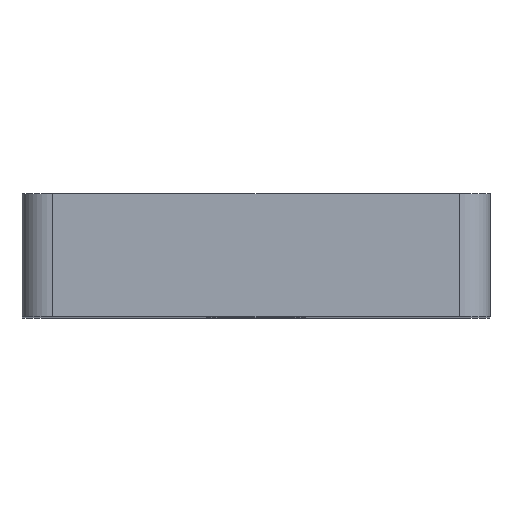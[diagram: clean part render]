
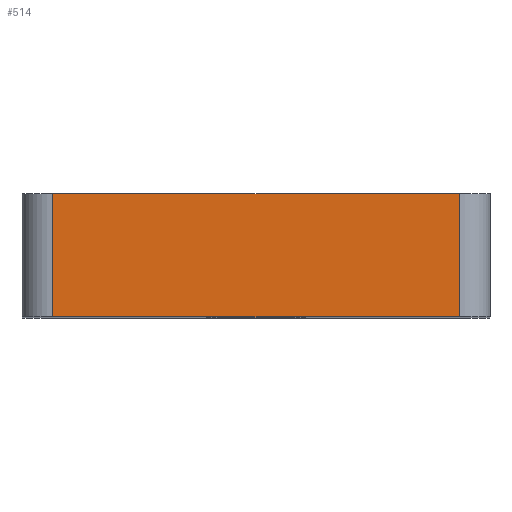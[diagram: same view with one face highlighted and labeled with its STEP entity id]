
A CAD part, top view. The second image highlights one B-rep face of the part: STEP entity #514.
In plain terms, the highlighted planar face has unit normal (0, 0, 1).
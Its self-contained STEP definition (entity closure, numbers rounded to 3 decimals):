
#3 = CARTESIAN_POINT ( 'NONE',  ( -19., 5., 40. ) ) ;
#25 = ORIENTED_EDGE ( 'NONE', *, *, #468, .T. ) ;
#31 = LINE ( 'NONE', #1380, #329 ) ;
#102 = EDGE_CURVE ( 'NONE', #371, #1270, #985, .T. ) ;
#138 = CARTESIAN_POINT ( 'NONE',  ( -19., -5., 40. ) ) ;
#173 = EDGE_LOOP ( 'NONE', ( #722, #1361, #470, #25 ) ) ;
#198 = LINE ( 'NONE', #1223, #583 ) ;
#224 = CARTESIAN_POINT ( 'NONE',  ( 16.5, -5., 40. ) ) ;
#243 = DIRECTION ( 'NONE',  ( 0., -1., 0. ) ) ;
#283 = CARTESIAN_POINT ( 'NONE',  ( -19., 5., 40. ) ) ;
#329 = VECTOR ( 'NONE', #1404, 1000. ) ;
#371 = VERTEX_POINT ( 'NONE', #908 ) ;
#468 = EDGE_CURVE ( 'NONE', #1133, #371, #198, .T. ) ;
#470 = ORIENTED_EDGE ( 'NONE', *, *, #1375, .F. ) ;
#491 = DIRECTION ( 'NONE',  ( 1., 0., 0. ) ) ;
#499 = DIRECTION ( 'NONE',  ( 1., 0., 0. ) ) ;
#514 = ADVANCED_FACE ( 'NONE', ( #1201 ), #714, .F. ) ;
#519 = CARTESIAN_POINT ( 'NONE',  ( 16.5, 5., 40. ) ) ;
#536 = LINE ( 'NONE', #283, #755 ) ;
#583 = VECTOR ( 'NONE', #243, 1000. ) ;
#714 = PLANE ( 'NONE',  #791 ) ;
#722 = ORIENTED_EDGE ( 'NONE', *, *, #102, .T. ) ;
#755 = VECTOR ( 'NONE', #491, 1000. ) ;
#791 = AXIS2_PLACEMENT_3D ( 'NONE', #3, #1284, #1205 ) ;
#908 = CARTESIAN_POINT ( 'NONE',  ( -16.5, -5., 40. ) ) ;
#931 = EDGE_CURVE ( 'NONE', #1270, #1230, #31, .T. ) ;
#976 = CARTESIAN_POINT ( 'NONE',  ( -16.5, 5., 40. ) ) ;
#985 = LINE ( 'NONE', #138, #1156 ) ;
#1133 = VERTEX_POINT ( 'NONE', #976 ) ;
#1156 = VECTOR ( 'NONE', #499, 1000. ) ;
#1201 = FACE_OUTER_BOUND ( 'NONE', #173, .T. ) ;
#1205 = DIRECTION ( 'NONE',  ( -1., 0., 0. ) ) ;
#1223 = CARTESIAN_POINT ( 'NONE',  ( -16.5, 5., 40. ) ) ;
#1230 = VERTEX_POINT ( 'NONE', #519 ) ;
#1270 = VERTEX_POINT ( 'NONE', #224 ) ;
#1284 = DIRECTION ( 'NONE',  ( 0., 0., -1. ) ) ;
#1361 = ORIENTED_EDGE ( 'NONE', *, *, #931, .T. ) ;
#1375 = EDGE_CURVE ( 'NONE', #1133, #1230, #536, .T. ) ;
#1380 = CARTESIAN_POINT ( 'NONE',  ( 16.5, 5., 40. ) ) ;
#1404 = DIRECTION ( 'NONE',  ( 0., 1., 0. ) ) ;
